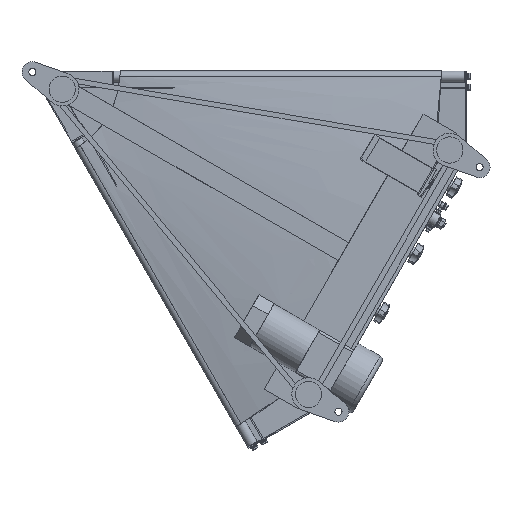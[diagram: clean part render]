
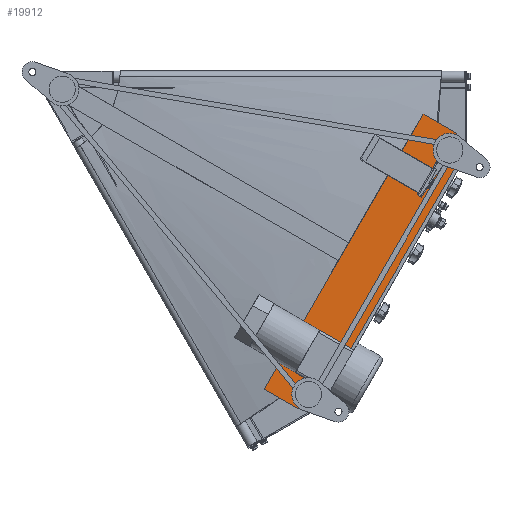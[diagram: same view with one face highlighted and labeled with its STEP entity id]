
A CAD part, front view. The second image highlights one B-rep face of the part: STEP entity #19912.
In plain terms, the highlighted planar face has unit normal (0, -1, 0).
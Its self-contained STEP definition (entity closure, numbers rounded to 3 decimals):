
#733 = PLANE ( 'NONE',  #31386 ) ;
#1011 = EDGE_CURVE ( 'NONE', #10543, #9876, #23131, .T. ) ;
#1447 = LINE ( 'NONE', #4009, #11349 ) ;
#2047 = DIRECTION ( 'NONE',  ( -0.866, 0., 0.5 ) ) ;
#2780 = CARTESIAN_POINT ( 'NONE',  ( 787.282, -167.5, -154.315 ) ) ;
#3507 = CARTESIAN_POINT ( 'NONE',  ( 715.679, -167.5, -78.334 ) ) ;
#4009 = CARTESIAN_POINT ( 'NONE',  ( 787.282, -167.5, -154.315 ) ) ;
#4784 = EDGE_CURVE ( 'NONE', #9876, #12919, #13432, .T. ) ;
#4840 = VECTOR ( 'NONE', #10149, 1000. ) ;
#5925 = DIRECTION ( 'NONE',  ( -0.966, 0., -0.259 ) ) ;
#6317 = EDGE_CURVE ( 'NONE', #12919, #18915, #23964, .T. ) ;
#6697 = EDGE_CURVE ( 'NONE', #26406, #17445, #26837, .T. ) ;
#8207 = ORIENTED_EDGE ( 'NONE', *, *, #6697, .F. ) ;
#8353 = CARTESIAN_POINT ( 'NONE',  ( 486.301, -167.5, -615.629 ) ) ;
#8810 = DIRECTION ( 'NONE',  ( 0.866, 0., -0.5 ) ) ;
#9167 = FACE_OUTER_BOUND ( 'NONE', #29299, .T. ) ;
#9607 = VECTOR ( 'NONE', #8810, 1000. ) ;
#9736 = VECTOR ( 'NONE', #5925, 1000. ) ;
#9876 = VERTEX_POINT ( 'NONE', #11858 ) ;
#10039 = CARTESIAN_POINT ( 'NONE',  ( 486.301, -167.5, -615.629 ) ) ;
#10149 = DIRECTION ( 'NONE',  ( 0.5, 0., 0.866 ) ) ;
#10543 = VERTEX_POINT ( 'NONE', #2780 ) ;
#11349 = VECTOR ( 'NONE', #19852, 1000. ) ;
#11858 = CARTESIAN_POINT ( 'NONE',  ( 527.282, -167.5, -604.648 ) ) ;
#12212 = CARTESIAN_POINT ( 'NONE',  ( 425.679, -167.5, -580.629 ) ) ;
#12350 = DIRECTION ( 'NONE',  ( -0.5, 0., -0.866 ) ) ;
#12360 = CARTESIAN_POINT ( 'NONE',  ( 425.679, -167.5, -580.629 ) ) ;
#12464 = CARTESIAN_POINT ( 'NONE',  ( 527.282, -167.5, -604.648 ) ) ;
#12898 = EDGE_CURVE ( 'NONE', #18915, #26406, #30688, .T. ) ;
#12919 = VERTEX_POINT ( 'NONE', #10039 ) ;
#13432 = LINE ( 'NONE', #8353, #9736 ) ;
#15409 = EDGE_CURVE ( 'NONE', #17445, #10543, #1447, .T. ) ;
#16432 = CARTESIAN_POINT ( 'NONE',  ( 715.679, -167.5, -78.334 ) ) ;
#16693 = DIRECTION ( 'NONE',  ( 0., 1., 0. ) ) ;
#17445 = VERTEX_POINT ( 'NONE', #19474 ) ;
#18915 = VERTEX_POINT ( 'NONE', #12212 ) ;
#19474 = CARTESIAN_POINT ( 'NONE',  ( 776.301, -167.5, -113.334 ) ) ;
#19840 = ORIENTED_EDGE ( 'NONE', *, *, #4784, .F. ) ;
#19852 = DIRECTION ( 'NONE',  ( 0.259, 0., -0.966 ) ) ;
#19912 = ADVANCED_FACE ( 'NONE', ( #9167 ), #733, .F. ) ;
#20282 = VECTOR ( 'NONE', #2047, 1000. ) ;
#22613 = ORIENTED_EDGE ( 'NONE', *, *, #6317, .F. ) ;
#22971 = ORIENTED_EDGE ( 'NONE', *, *, #12898, .F. ) ;
#23131 = LINE ( 'NONE', #12464, #23528 ) ;
#23370 = ORIENTED_EDGE ( 'NONE', *, *, #1011, .F. ) ;
#23528 = VECTOR ( 'NONE', #12350, 1000. ) ;
#23964 = LINE ( 'NONE', #25820, #20282 ) ;
#25820 = CARTESIAN_POINT ( 'NONE',  ( 425.679, -167.5, -580.629 ) ) ;
#26406 = VERTEX_POINT ( 'NONE', #16432 ) ;
#26837 = LINE ( 'NONE', #3507, #9607 ) ;
#29299 = EDGE_LOOP ( 'NONE', ( #31726, #8207, #22971, #22613, #19840, #23370 ) ) ;
#29871 = CARTESIAN_POINT ( 'NONE',  ( 9.062, -167.5, -5.232 ) ) ;
#30688 = LINE ( 'NONE', #12360, #4840 ) ;
#31386 = AXIS2_PLACEMENT_3D ( 'NONE', #29871, #16693, #32489 ) ;
#31726 = ORIENTED_EDGE ( 'NONE', *, *, #15409, .F. ) ;
#32489 = DIRECTION ( 'NONE',  ( 0.208, 0., 0.978 ) ) ;
